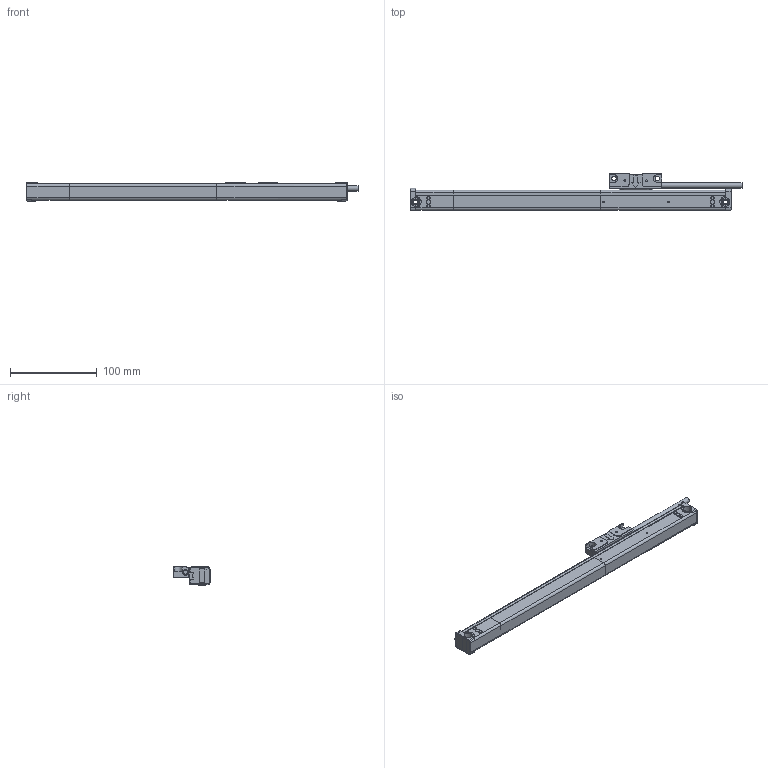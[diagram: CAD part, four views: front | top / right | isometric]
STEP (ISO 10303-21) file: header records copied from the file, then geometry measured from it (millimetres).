
FILE_DESCRIPTION( ( 'STEP AP203' ), '1' );
FILE_NAME( 'N:/Engineering/CAD_Solid/Magnescale/GBER/GB-025ER_SR138-025R.stp', '2013-03-14T10:08:00', ( ' ' ), ( ' ' ), 'XStep 1.0', ' ', ' ' );
FILE_SCHEMA( ( 'CONFIG_CONTROL_DESIGN) ( )' ) );
Length unit declared in the file: metre
Products named in the file (1): 1
Bounding box: 382.5 x 42 x 21 mm (x, y, z)
Surface area: 43341.8 mm2 (no closed solid volume)
Topology: 0 solids, 297 shells, 297 faces, 1621 edges, 1586 vertices
Faces by surface type: plane 189, cylinder 87, torus 12, cone 9
Full cylindrical faces by diameter (mm): 2.013 x2, 2.113 x2, 3.242 x1, 4 x8, 4.8 x2, 5 x2, 6 x1, 9.8 x2, 10 x2
Entity records: 15668 total; most frequent: CARTESIAN_POINT 3450, DIRECTION 2644, ORIENTED_EDGE 1576, EDGE_CURVE 1576, VERTEX_POINT 1576, LINE 1104, VECTOR 1104, AXIS2_PLACEMENT_3D 770
